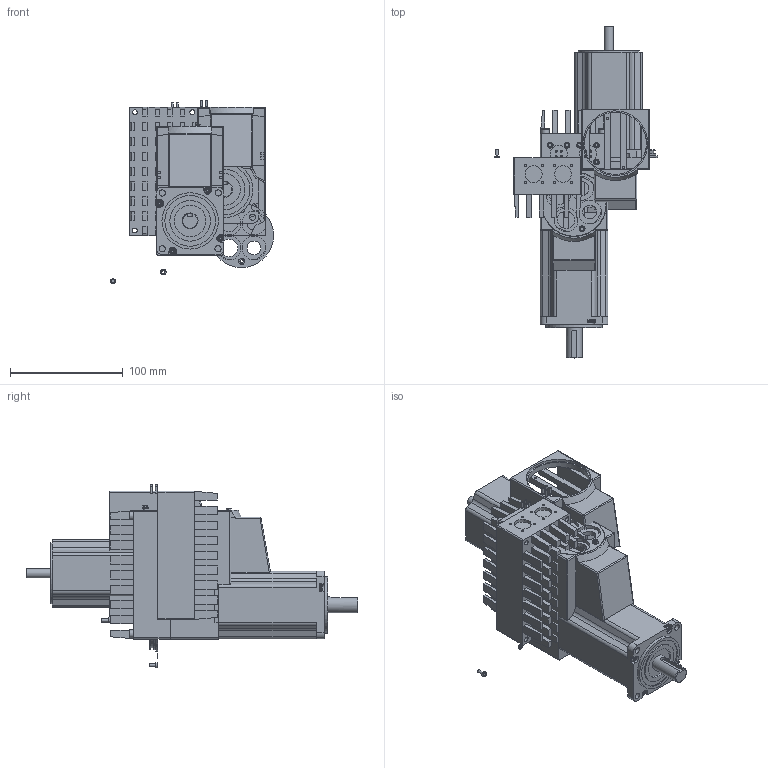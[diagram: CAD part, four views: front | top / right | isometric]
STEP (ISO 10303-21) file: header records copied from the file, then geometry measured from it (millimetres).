
FILE_DESCRIPTION( ( 'Unknown' ), '1' );
FILE_NAME( 'K:/JVL/MACxxx/MAC400/Mekanik/Koncepttegninger/Version 2 fræst/New Folder/MAC400.stp', 'Unknown', ( 'Unknown' ), ( 'Unknown' ), 'PSStep 10.1', 'Unknown', ' ' );
FILE_SCHEMA( ( 'automotive_design' ) );
Length unit declared in the file: millimetre
Products named in the file (12): Assem1; MAC400 House; MAC400 Køleplade; Front del af komotec uden bremse; MAC00-B4; M2,5 skive 1414; M2,5x6 torx; M4x40 hex; m3x50; m3 skive; M16 stift hun; M16 stift han
Bounding box: 144.67 x 294.35 x 162.63 mm (x, y, z)
Volume: 1333220.4 mm3; surface area: 301681.4 mm2
Topology: 53 solids, 53 shells, 1548 faces, 3732 edges, 2496 vertices
Faces by surface type: plane 1062, cylinder 453, torus 27, sphere 4, cone 2
Full cylindrical faces by diameter (mm): 1.6 x10, 2 x5, 2.013 x22, 2.459 x8, 2.5 x11, 2.7 x9, 2.8 x4, 3 x5, 3.2 x5, 3.242 x4, 3.5 x13, 4 x5, 4.3 x8, 4.4 x11, 5 x9, 5.3 x9, 5.33 x5, 5.5 x8, 6 x5, 6.9 x5, 8 x2, 8.5 x2, 12.2 x4, 14 x2, 15 x2, 15.5 x4, 21 x8, 24 x2, 28 x2, 36 x2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
Entity records: 18394 total; most frequent: CARTESIAN_POINT 3199, DIRECTION 3057, ORIENTED_EDGE 2850, EDGE_CURVE 1425, LINE 1091, VECTOR 1091, VERTEX_POINT 995, AXIS2_PLACEMENT_3D 983
